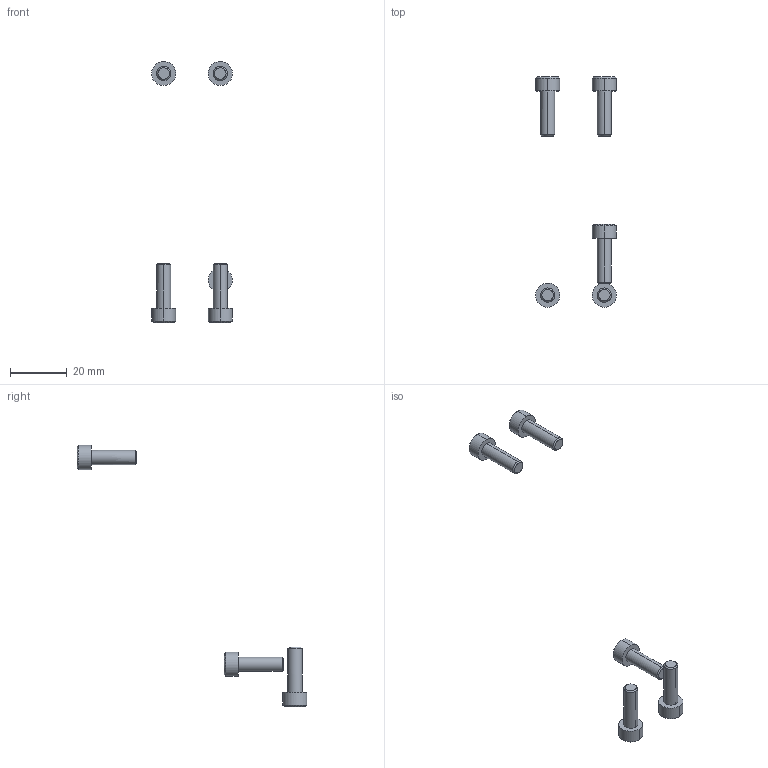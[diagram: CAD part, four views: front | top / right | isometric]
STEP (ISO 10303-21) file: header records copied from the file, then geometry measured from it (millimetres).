
FILE_DESCRIPTION(/* description */ (''),/* implementation_level */ '2;1');
FILE_NAME(/* name */ 'X-CART~4',/* time_stamp */ '2014-02-14T19:44:15+01:00',/* author */ (''),/* organization */ (''),/* preprocessor_version */ 'ST-DEVELOPER v14',/* originating_system */ '',/* authorisation */ '');
FILE_SCHEMA (('AUTOMOTIVE_DESIGN'));
Length unit declared in the file: millimetre
Products named in the file (2): Document; screw DIN912-like, M5x16
Assembly tree (5 placements, depth 2):
  Document
    screw DIN912-like, M5x16  x5
Bounding box: 28.49 x 81.15 x 92.15 mm (x, y, z)
Volume: 2787 mm3; surface area: 2602.9 mm2
Topology: 5 solids, 5 shells, 125 faces, 280 edges, 165 vertices
Faces by surface type: plane 75, bspline 50
Entity records: 1437 total; most frequent: CARTESIAN_POINT 636, B_SPLINE_CURVE_WITH_KNOTS 126, ORIENTED_EDGE 108, PCURVE 108, DEFINITIONAL_REPRESENTATION 108, SURFACE_CURVE 54, EDGE_CURVE 54, VERTEX_POINT 33
